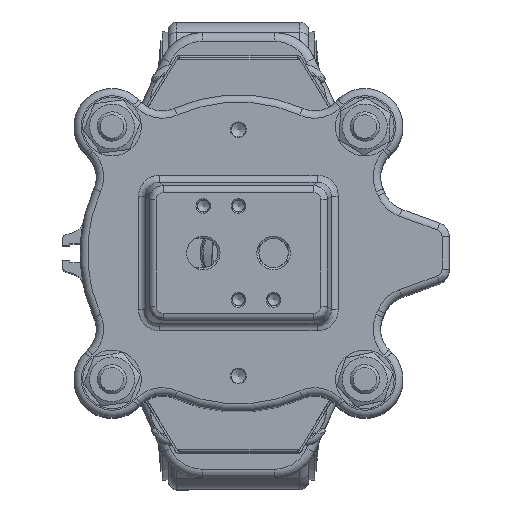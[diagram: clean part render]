
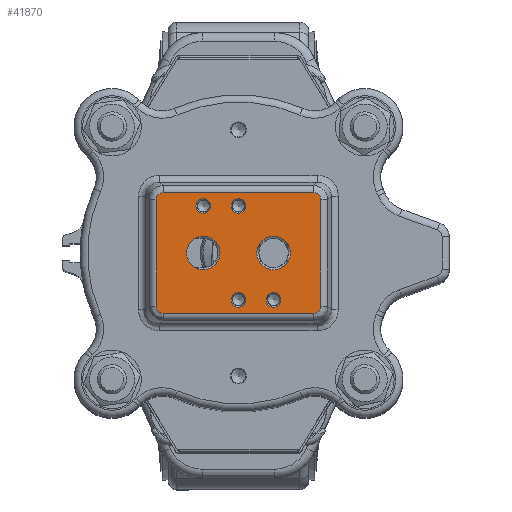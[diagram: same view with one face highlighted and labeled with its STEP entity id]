
A CAD part, top view. The second image highlights one B-rep face of the part: STEP entity #41870.
In plain terms, the highlighted planar face has unit normal (0, 0, 1).
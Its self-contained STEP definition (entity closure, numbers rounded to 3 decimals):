
#506=ELLIPSE('',#45175,2.673,2.5);
#507=ELLIPSE('',#45176,2.673,2.5);
#508=ELLIPSE('',#45177,2.673,2.5);
#509=ELLIPSE('',#45178,2.673,2.5);
#1990=PLANE('',#45174);
#3787=LINE('',#67810,#5916);
#3788=LINE('',#67814,#5917);
#3789=LINE('',#67818,#5918);
#3790=LINE('',#67821,#5919);
#5916=VECTOR('',#51926,10.);
#5917=VECTOR('',#51929,10.);
#5918=VECTOR('',#51932,10.);
#5919=VECTOR('',#51935,10.);
#8787=FACE_BOUND('',#12614,.T.);
#8788=FACE_BOUND('',#12615,.T.);
#8789=FACE_BOUND('',#12616,.T.);
#8790=FACE_BOUND('',#12617,.T.);
#8791=FACE_BOUND('',#12618,.T.);
#8792=FACE_BOUND('',#12619,.T.);
#9630=FACE_OUTER_BOUND('',#12613,.T.);
#12613=EDGE_LOOP('',(#30384,#30385,#30386,#30387,#30388,#30389,#30390,#30391));
#12614=EDGE_LOOP('',(#30392));
#12615=EDGE_LOOP('',(#30393));
#12616=EDGE_LOOP('',(#30394));
#12617=EDGE_LOOP('',(#30395));
#12618=EDGE_LOOP('',(#30396));
#12619=EDGE_LOOP('',(#30397));
#15706=CIRCLE('',#45047,5.723);
#15708=CIRCLE('',#45050,5.723);
#15798=CIRCLE('',#45173,2.5);
#15799=CIRCLE('',#45179,2.5);
#15800=CIRCLE('',#45180,2.5);
#15801=CIRCLE('',#45181,2.5);
#18811=VERTEX_POINT('',#67254);
#18812=VERTEX_POINT('',#67258);
#18912=VERTEX_POINT('',#67803);
#18913=VERTEX_POINT('',#67806);
#18914=VERTEX_POINT('',#67807);
#18915=VERTEX_POINT('',#67809);
#18916=VERTEX_POINT('',#67811);
#18917=VERTEX_POINT('',#67813);
#18918=VERTEX_POINT('',#67815);
#18919=VERTEX_POINT('',#67817);
#18920=VERTEX_POINT('',#67819);
#18921=VERTEX_POINT('',#67822);
#18922=VERTEX_POINT('',#67824);
#18923=VERTEX_POINT('',#67826);
#23046=EDGE_CURVE('',#18811,#18811,#15706,.T.);
#23048=EDGE_CURVE('',#18812,#18812,#15708,.T.);
#23178=EDGE_CURVE('',#18912,#18912,#15798,.T.);
#23179=EDGE_CURVE('',#18913,#18914,#506,.T.);
#23180=EDGE_CURVE('',#18915,#18913,#3787,.T.);
#23181=EDGE_CURVE('',#18916,#18915,#507,.T.);
#23182=EDGE_CURVE('',#18917,#18916,#3788,.T.);
#23183=EDGE_CURVE('',#18918,#18917,#508,.T.);
#23184=EDGE_CURVE('',#18919,#18918,#3789,.T.);
#23185=EDGE_CURVE('',#18920,#18919,#509,.T.);
#23186=EDGE_CURVE('',#18914,#18920,#3790,.T.);
#23187=EDGE_CURVE('',#18921,#18921,#15799,.T.);
#23188=EDGE_CURVE('',#18922,#18922,#15800,.T.);
#23189=EDGE_CURVE('',#18923,#18923,#15801,.T.);
#30384=ORIENTED_EDGE('',*,*,#23179,.F.);
#30385=ORIENTED_EDGE('',*,*,#23180,.F.);
#30386=ORIENTED_EDGE('',*,*,#23181,.F.);
#30387=ORIENTED_EDGE('',*,*,#23182,.F.);
#30388=ORIENTED_EDGE('',*,*,#23183,.F.);
#30389=ORIENTED_EDGE('',*,*,#23184,.F.);
#30390=ORIENTED_EDGE('',*,*,#23185,.F.);
#30391=ORIENTED_EDGE('',*,*,#23186,.F.);
#30392=ORIENTED_EDGE('',*,*,#23046,.T.);
#30393=ORIENTED_EDGE('',*,*,#23048,.T.);
#30394=ORIENTED_EDGE('',*,*,#23187,.F.);
#30395=ORIENTED_EDGE('',*,*,#23188,.F.);
#30396=ORIENTED_EDGE('',*,*,#23189,.F.);
#30397=ORIENTED_EDGE('',*,*,#23178,.F.);
#41870=ADVANCED_FACE('',(#9630,#8787,#8788,#8789,#8790,#8791,#8792),#1990,
 .F.);
#45047=AXIS2_PLACEMENT_3D('',#67255,#51646,#51647);
#45050=AXIS2_PLACEMENT_3D('',#67259,#51652,#51653);
#45173=AXIS2_PLACEMENT_3D('',#67804,#51920,#51921);
#45174=AXIS2_PLACEMENT_3D('',#67805,#51922,#51923);
#45175=AXIS2_PLACEMENT_3D('',#67808,#51924,#51925);
#45176=AXIS2_PLACEMENT_3D('',#67812,#51927,#51928);
#45177=AXIS2_PLACEMENT_3D('',#67816,#51930,#51931);
#45178=AXIS2_PLACEMENT_3D('',#67820,#51933,#51934);
#45179=AXIS2_PLACEMENT_3D('',#67823,#51936,#51937);
#45180=AXIS2_PLACEMENT_3D('',#67825,#51938,#51939);
#45181=AXIS2_PLACEMENT_3D('',#67827,#51940,#51941);
#51646=DIRECTION('center_axis',(0.,0.,
-1.));
#51647=DIRECTION('ref_axis',(1.,0.,0.));
#51652=DIRECTION('center_axis',(0.,0.,
-1.));
#51653=DIRECTION('ref_axis',(1.,0.,0.));
#51920=DIRECTION('center_axis',(0.,0.,
1.));
#51921=DIRECTION('ref_axis',(-1.,0.,0.));
#51922=DIRECTION('center_axis',(0.,0.,
-1.));
#51923=DIRECTION('ref_axis',(-1.,0.,0.));
#51924=DIRECTION('center_axis',(0.,0.,
-1.));
#51925=DIRECTION('ref_axis',(-0.707,-0.707,0.));
#51926=DIRECTION('',(-1.,0.,0.));
#51927=DIRECTION('center_axis',(0.,0.,
-1.));
#51928=DIRECTION('ref_axis',(0.707,-0.707,0.));
#51929=DIRECTION('',(0.,-1.,0.));
#51930=DIRECTION('center_axis',(0.,0.,
-1.));
#51931=DIRECTION('ref_axis',(0.707,0.707,0.));
#51932=DIRECTION('',(1.,0.,0.));
#51933=DIRECTION('center_axis',(0.,0.,
-1.));
#51934=DIRECTION('ref_axis',(-0.707,0.707,0.));
#51935=DIRECTION('',(0.,1.,0.));
#51936=DIRECTION('center_axis',(0.,0.,
1.));
#51937=DIRECTION('ref_axis',(-1.,0.,0.));
#51938=DIRECTION('center_axis',(0.,0.,
1.));
#51939=DIRECTION('ref_axis',(-1.,0.,0.));
#51940=DIRECTION('center_axis',(0.,0.,
1.));
#51941=DIRECTION('ref_axis',(-1.,0.,0.));
#67254=CARTESIAN_POINT('',(-6.278,0.,603.));
#67255=CARTESIAN_POINT('Origin',(-12.,0.,
603.));
#67258=CARTESIAN_POINT('',(17.722,0.,603.));
#67259=CARTESIAN_POINT('Origin',(12.,0.,
603.));
#67803=CARTESIAN_POINT('',(-9.5,16.,603.));
#67804=CARTESIAN_POINT('Origin',(-12.,16.,603.));
#67805=CARTESIAN_POINT('Origin',(0.,0.,
603.));
#67806=CARTESIAN_POINT('',(-25.667,-20.582,603.));
#67807=CARTESIAN_POINT('',(-28.082,-18.167,603.));
#67808=CARTESIAN_POINT('Origin',(-25.493,-17.993,603.));
#67809=CARTESIAN_POINT('',(25.667,-20.582,603.));
#67810=CARTESIAN_POINT('',(-15.,-20.582,603.));
#67811=CARTESIAN_POINT('',(28.082,-18.167,603.));
#67812=CARTESIAN_POINT('Origin',(25.493,-17.993,603.));
#67813=CARTESIAN_POINT('',(28.082,18.167,603.));
#67814=CARTESIAN_POINT('',(28.082,-11.25,603.));
#67815=CARTESIAN_POINT('',(25.667,20.582,603.));
#67816=CARTESIAN_POINT('Origin',(25.493,17.993,603.));
#67817=CARTESIAN_POINT('',(-25.667,20.582,603.));
#67818=CARTESIAN_POINT('',(15.,20.582,603.));
#67819=CARTESIAN_POINT('',(-28.082,18.167,603.));
#67820=CARTESIAN_POINT('Origin',(-25.493,17.993,603.));
#67821=CARTESIAN_POINT('',(-28.082,11.25,603.));
#67822=CARTESIAN_POINT('',(2.5,16.,603.));
#67823=CARTESIAN_POINT('Origin',(0.,16.,
603.));
#67824=CARTESIAN_POINT('',(14.5,-16.,603.));
#67825=CARTESIAN_POINT('Origin',(12.,-16.,603.));
#67826=CARTESIAN_POINT('',(2.5,-16.,603.));
#67827=CARTESIAN_POINT('Origin',(0.,-16.,
603.));
